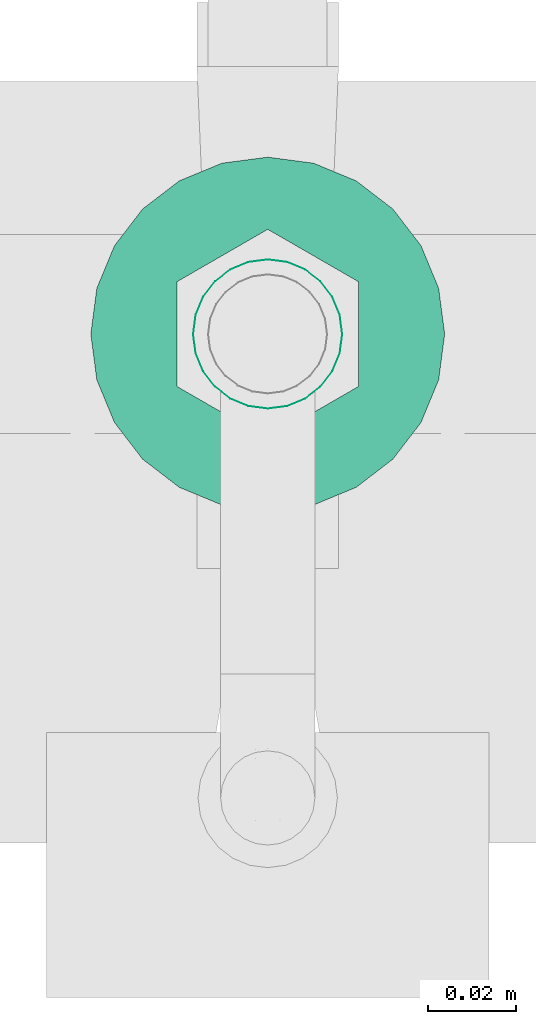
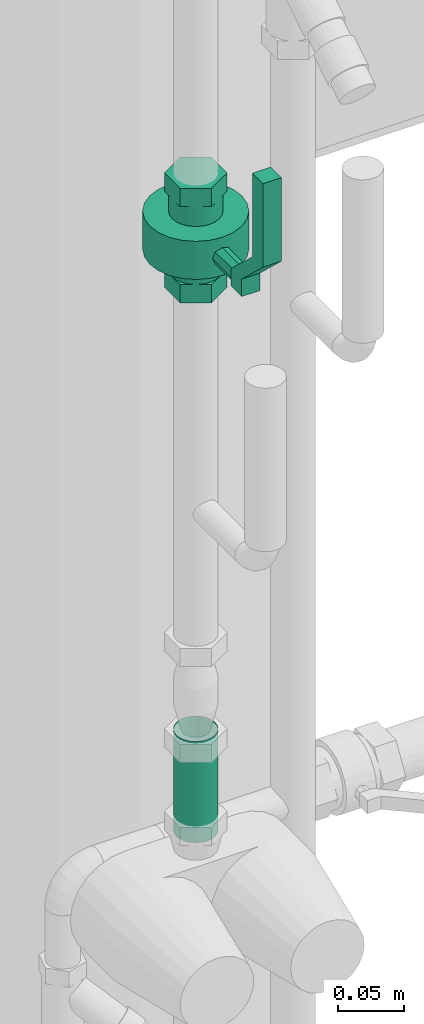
# One storey, part 100 of 374: 1 flow controller, 1 flow segment.
"""IFC2X3 building model written with IfcOpenShell, lengths in metres."""

from ifc_helpers import new_model, si_unit, direction, origin, place, context, subcontext, project, spatial, open_shell, surface_model, source, transform, mapped, element, save


model = new_model("IFC2X3")

# Units and contexts
model_context = context("Model", 3, precision=1e-05, world=origin(), true_north=direction((-0.4480736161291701, 0.8939966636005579)))
body_context = subcontext(model_context, "Body", "Model", "MODEL_VIEW")
ifc_project = project(units=[si_unit("LENGTHUNIT", "METRE"), si_unit("AREAUNIT", "SQUARE_METRE"), si_unit("VOLUMEUNIT", "CUBIC_METRE"), si_unit("PLANEANGLEUNIT", "RADIAN"), si_unit("THERMODYNAMICTEMPERATUREUNIT", "KELVIN"), si_unit("MASSUNIT", "GRAM", prefix="KILO"), si_unit("TIMEUNIT", "SECOND")], contexts=[model_context])

# Site, building, storey
site_placement = place(None, origin())
site = spatial("IfcSite", under=ifc_project, at=site_placement, Name="Site 1", CompositionType="ELEMENT")
building_placement = place(site_placement, origin())
building = spatial("IfcBuilding", under=site, at=building_placement, Name="Undefined", CompositionType="ELEMENT")
storey_placement = place(building_placement, origin())
storey = spatial("IfcBuildingStorey", under=building, at=storey_placement, Name="Rez de chauss\x8ee", CompositionType="ELEMENT", Elevation=0.0)

# Flow segment
shared_shape_1 = source(origin(), body_context, "Body", "SurfaceModel", [
    surface_model("IfcFaceBasedSurfaceModel", [(0.0, 0.004398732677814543, 0.0), (0.0, 0.0, 0.0), (0.09294752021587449, 8.8817842e-16, 0.0), (0.09294752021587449, 0.004398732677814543, 0.0), (0.0, -0.004248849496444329, -0.00113847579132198), (0.09294752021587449, -0.004248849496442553, -0.0011384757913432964), (0.0, -0.008058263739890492, -0.003337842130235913), (0.09294752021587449, -0.008058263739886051, -0.003337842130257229), (0.0, -0.01116863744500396, -0.0064482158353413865), (0.09294752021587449, -0.01116863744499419, -0.006448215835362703), (0.0, -0.013368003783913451, -0.010257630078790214), (0.09294752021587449, -0.013368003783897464, -0.010257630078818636), (0.0, -0.014506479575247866, -0.014506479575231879), (0.09294752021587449, -0.014506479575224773, -0.0145064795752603), (0.0, -0.01450647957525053, -0.01890521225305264), (0.09294752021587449, -0.014506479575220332, -0.018905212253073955), (0.0, -0.013368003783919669, -0.023154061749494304), (0.09294752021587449, -0.013368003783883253, -0.023154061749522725), (0.0, -0.011168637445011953, -0.02696347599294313), (0.09294752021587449, -0.011168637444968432, -0.026963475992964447), (0.0, -0.008058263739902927, -0.03007384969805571), (0.09294752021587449, -0.008058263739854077, -0.03007384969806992), (0.0, -0.004248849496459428, -0.03227321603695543), (0.09294752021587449, -0.004248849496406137, -0.03227321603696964), (0.0, -1.5099033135e-14, -0.03341169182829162), (0.09294752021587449, 3.8191672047e-14, -0.03341169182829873), (0.0, 0.00439873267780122, -0.03341169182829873), (0.09294752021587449, 0.004398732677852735, -0.03341169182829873), (0.0, 0.008647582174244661, -0.03227321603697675), (0.09294752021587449, 0.008647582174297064, -0.03227321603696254), (0.0, 0.012456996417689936, -0.030073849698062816), (0.09294752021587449, 0.012456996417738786, -0.0300738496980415), (0.0, 0.01556737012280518, -0.026963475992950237), (0.09294752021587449, 0.015567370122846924, -0.026963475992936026), (0.0, 0.017766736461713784, -0.023154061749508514), (0.09294752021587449, 0.01776673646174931, -0.023154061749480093), (0.0, 0.018905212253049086, -0.01890521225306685), (0.09294752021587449, 0.018905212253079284, -0.018905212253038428), (0.0, 0.018905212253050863, -0.01450647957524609), (0.09294752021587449, 0.01890521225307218, -0.014506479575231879), (0.0, 0.01776673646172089, -0.01025763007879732), (0.09294752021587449, 0.017766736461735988, -0.010257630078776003), (0.0, 0.015567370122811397, -0.006448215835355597), (0.09294752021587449, 0.015567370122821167, -0.006448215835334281), (0.0, 0.012456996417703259, -0.0033378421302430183), (0.09294752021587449, 0.012456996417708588, -0.003337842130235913), (0.0, 0.00864758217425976, -0.0011384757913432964), (0.09294752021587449, 0.00864758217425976, -0.0011384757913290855)], [open_shell([[[0, 1, 2, 3]], [[1, 4, 5, 2]], [[4, 6, 7, 5]], [[6, 8, 9, 7]], [[8, 10, 11, 9]], [[10, 12, 13, 11]], [[12, 14, 15, 13]], [[14, 16, 17, 15]], [[16, 18, 19, 17]], [[18, 20, 21, 19]], [[20, 22, 23, 21]], [[22, 24, 25, 23]], [[24, 26, 27, 25]], [[26, 28, 29, 27]], [[28, 30, 31, 29]], [[30, 32, 33, 31]], [[32, 34, 35, 33]], [[34, 36, 37, 35]], [[36, 38, 39, 37]], [[38, 40, 41, 39]], [[40, 42, 43, 41]], [[42, 44, 45, 43]], [[44, 46, 47, 45]], [[46, 0, 3, 47]]])]),
])
flow_segment_placement = place(storey_placement, origin())
element("IfcFlowSegment", 1, at=flow_segment_placement, inside=storey, Name="Tube acier d'après DIN 2448", ObjectType="Tube acier d'après DIN 2448", context=body_context, shape_type="MappedRepresentation", body=[
    mapped(shared_shape_1, transform((53.27383786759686, 10.722398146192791, 1.1632), x_axis=(0.0, 0.0, 1.0), y_axis=(0.13052619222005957, -0.9914448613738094, 0.0), z_axis=(0.9914448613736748, 0.13052619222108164, 0.0))),
])

# Flow controller
shared_shape_2 = source(origin(), body_context, "Body", "SurfaceModel", [
    surface_model("IfcFaceBasedSurfaceModel", [(0.0, 0.0, 0.0), (0.016000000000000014, 0.0, 0.0), (0.016000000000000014, 0.015999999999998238, 0.0), (0.0, 0.015999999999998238, 0.0), (0.016000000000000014, 0.0, 0.016000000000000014), (0.016000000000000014, 0.015999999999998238, 0.016000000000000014), (0.0, 0.0, 0.016000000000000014), (0.0, 0.015999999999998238, 0.016000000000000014), (-0.030333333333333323, 0.0, 0.04800000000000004), (-0.030333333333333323, 0.015999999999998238, 0.04800000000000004), (-0.1070000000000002, 0.0, 0.04800000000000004), (-0.1070000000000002, 0.015999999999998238, 0.04800000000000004), (-0.1070000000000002, 0.0, 0.03200000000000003), (-0.1070000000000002, 0.015999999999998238, 0.03200000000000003), (-0.030333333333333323, 0.0, 0.03200000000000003), (-0.030333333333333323, 0.015999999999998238, 0.03200000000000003), (0.060500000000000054, 0.02850000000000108, -0.0788356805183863), (0.060500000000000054, 0.02850000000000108, -0.05516431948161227), (0.04370000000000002, 0.02850000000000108, -0.05516431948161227), (0.04370000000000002, 0.02850000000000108, -0.0788356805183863), (0.060500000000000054, 0.008000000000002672, -0.0906713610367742), (0.04370000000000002, 0.008000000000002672, -0.0906713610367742), (0.060500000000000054, -0.012500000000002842, -0.0788356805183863), (0.04370000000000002, -0.012500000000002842, -0.0788356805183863), (0.060500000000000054, -0.012500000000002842, -0.05516431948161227), (0.04370000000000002, -0.012500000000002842, -0.05516431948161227), (0.060500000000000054, 0.008000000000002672, -0.043328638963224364), (0.04370000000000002, 0.008000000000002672, -0.043328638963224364), (0.04370000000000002, -0.012500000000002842, -0.06700000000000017), (0.04370000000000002, -0.011801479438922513, -0.06169420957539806), (0.025500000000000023, -0.011801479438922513, -0.06169420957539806), (0.025500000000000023, -0.012500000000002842, -0.06700000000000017), (0.04370000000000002, -0.009753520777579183, -0.05674999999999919), (0.025500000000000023, -0.009753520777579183, -0.05674999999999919), (0.04370000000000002, -0.006495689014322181, -0.05250431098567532), (0.025500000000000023, -0.006495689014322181, -0.05250431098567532), (0.04370000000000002, -0.002250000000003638, -0.049246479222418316), (0.025500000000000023, -0.002250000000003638, -0.049246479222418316), (0.04370000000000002, 0.0026942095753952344, -0.04719852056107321), (0.025500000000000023, 0.0026942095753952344, -0.04719852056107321), (0.04370000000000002, 0.008000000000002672, -0.046499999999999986), (0.025500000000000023, 0.008000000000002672, -0.046499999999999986), (0.04370000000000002, 0.013305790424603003, -0.04719852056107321), (0.025500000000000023, 0.013305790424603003, -0.04719852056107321), (0.04370000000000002, 0.018250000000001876, -0.049246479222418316), (0.025500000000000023, 0.018250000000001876, -0.049246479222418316), (0.04370000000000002, 0.02249568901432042, -0.05250431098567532), (0.025500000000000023, 0.02249568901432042, -0.05250431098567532), (0.04370000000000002, 0.02575352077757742, -0.05674999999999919), (0.025500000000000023, 0.02575352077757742, -0.05674999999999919), (0.04370000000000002, 0.02780147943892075, -0.06169420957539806), (0.025500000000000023, 0.02780147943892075, -0.06169420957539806), (0.04370000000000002, 0.02850000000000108, -0.06700000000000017), (0.025500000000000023, 0.02850000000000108, -0.06700000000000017), (0.04370000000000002, 0.02780147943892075, -0.0723057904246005), (0.025500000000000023, 0.02780147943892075, -0.0723057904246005), (0.04370000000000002, 0.02575352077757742, -0.07724999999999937), (0.025500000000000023, 0.02575352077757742, -0.07724999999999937), (0.04370000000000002, 0.02249568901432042, -0.08149568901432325), (0.025500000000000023, 0.02249568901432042, -0.08149568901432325), (0.04370000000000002, 0.018250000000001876, -0.08475352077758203), (0.025500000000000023, 0.018250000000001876, -0.08475352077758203), (0.04370000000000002, 0.013305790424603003, -0.08680147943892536), (0.025500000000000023, 0.013305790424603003, -0.08680147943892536), (0.04370000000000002, 0.008000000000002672, -0.08749999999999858), (0.025500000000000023, 0.008000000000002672, -0.08749999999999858), (0.04370000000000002, 0.0026942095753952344, -0.08680147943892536), (0.025500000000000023, 0.0026942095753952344, -0.08680147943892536), (0.04370000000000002, -0.002250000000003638, -0.08475352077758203), (0.025500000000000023, -0.002250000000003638, -0.08475352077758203), (0.04370000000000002, -0.006495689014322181, -0.08149568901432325), (0.025500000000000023, -0.006495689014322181, -0.08149568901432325), (0.04370000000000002, -0.009753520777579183, -0.07724999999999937), (0.025500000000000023, -0.009753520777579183, -0.07724999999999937), (0.04370000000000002, -0.011801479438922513, -0.0723057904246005), (0.025500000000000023, -0.011801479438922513, -0.0723057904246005), (0.025500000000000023, -0.03200000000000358, -0.06700000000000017), (0.025500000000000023, -0.030637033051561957, -0.05664723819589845), (-0.009499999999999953, -0.030637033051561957, -0.05664723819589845), (-0.009499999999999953, -0.03200000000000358, -0.06700000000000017), (0.025500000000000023, -0.02664101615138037, -0.04699999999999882), (-0.009499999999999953, -0.02664101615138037, -0.04699999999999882), (0.025500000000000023, -0.020284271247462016, -0.03871572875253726), (-0.009499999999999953, -0.020284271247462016, -0.03871572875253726), (0.025500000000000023, -0.012000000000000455, -0.03235898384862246), (-0.009499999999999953, -0.012000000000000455, -0.03235898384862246), (0.025500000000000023, -0.002352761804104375, -0.028362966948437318), (-0.009499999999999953, -0.002352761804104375, -0.028362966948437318), (0.025500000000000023, 0.008000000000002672, -0.026999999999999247), (-0.009499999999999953, 0.008000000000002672, -0.026999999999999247), (0.025500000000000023, 0.018352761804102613, -0.028362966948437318), (-0.009499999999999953, 0.018352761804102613, -0.028362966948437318), (0.025500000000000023, 0.027999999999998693, -0.03235898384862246), (-0.009499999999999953, 0.027999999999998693, -0.03235898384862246), (0.025500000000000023, 0.036284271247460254, -0.03871572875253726), (-0.009499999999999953, 0.036284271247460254, -0.03871572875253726), (0.025500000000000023, 0.04264101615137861, -0.04699999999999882), (-0.009499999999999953, 0.04264101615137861, -0.04699999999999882), (0.025500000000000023, 0.046637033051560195, -0.05664723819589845), (-0.009499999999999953, 0.046637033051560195, -0.05664723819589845), (0.025500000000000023, 0.04800000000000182, -0.06700000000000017), (-0.009499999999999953, 0.04800000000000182, -0.06700000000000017), (0.025500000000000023, 0.046637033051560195, -0.07735276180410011), (-0.009499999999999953, 0.046637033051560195, -0.07735276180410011), (0.025500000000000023, 0.04264101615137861, -0.08699999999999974), (-0.009499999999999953, 0.04264101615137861, -0.08699999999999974), (0.025500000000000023, 0.036284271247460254, -0.0952842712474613), (-0.009499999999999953, 0.036284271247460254, -0.0952842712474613), (0.025500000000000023, 0.027999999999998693, -0.10164101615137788), (-0.009499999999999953, 0.027999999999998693, -0.10164101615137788), (0.025500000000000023, 0.018352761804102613, -0.10563703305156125), (-0.009499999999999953, 0.018352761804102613, -0.10563703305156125), (0.025500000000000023, 0.008000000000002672, -0.10699999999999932), (-0.009499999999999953, 0.008000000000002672, -0.10699999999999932), (0.025500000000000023, -0.002352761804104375, -0.10563703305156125), (-0.009499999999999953, -0.002352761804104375, -0.10563703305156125), (0.025500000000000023, -0.012000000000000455, -0.10164101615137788), (-0.009499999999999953, -0.012000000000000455, -0.10164101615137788), (0.025500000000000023, -0.020284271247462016, -0.0952842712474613), (-0.009499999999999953, -0.020284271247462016, -0.0952842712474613), (0.025500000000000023, -0.02664101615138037, -0.08699999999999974), (-0.009499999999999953, -0.02664101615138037, -0.08699999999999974), (0.025500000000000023, -0.030637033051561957, -0.07735276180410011), (-0.009499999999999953, -0.030637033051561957, -0.07735276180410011), (0.025500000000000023, 0.008000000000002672, -0.06700000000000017), (-0.009499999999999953, 0.008000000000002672, -0.06700000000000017), (-0.009499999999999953, -0.012500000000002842, -0.06700000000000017), (-0.009499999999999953, -0.011801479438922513, -0.06169420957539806), (-0.027699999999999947, -0.011801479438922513, -0.06169420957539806), (-0.027699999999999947, -0.012500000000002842, -0.06700000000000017), (-0.009499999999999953, -0.009753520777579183, -0.05674999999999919), (-0.027699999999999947, -0.009753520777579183, -0.05674999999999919), (-0.009499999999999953, -0.006495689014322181, -0.05250431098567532), (-0.027699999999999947, -0.006495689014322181, -0.05250431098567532), (-0.009499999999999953, -0.002250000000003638, -0.049246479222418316), (-0.027699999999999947, -0.002250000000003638, -0.049246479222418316), (-0.009499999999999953, 0.0026942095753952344, -0.04719852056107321), (-0.027699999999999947, 0.0026942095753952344, -0.04719852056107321), (-0.009499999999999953, 0.008000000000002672, -0.046499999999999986), (-0.027699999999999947, 0.008000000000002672, -0.046499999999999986), (-0.009499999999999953, 0.013305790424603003, -0.04719852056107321), (-0.027699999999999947, 0.013305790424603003, -0.04719852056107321), (-0.009499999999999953, 0.018250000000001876, -0.049246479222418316), (-0.027699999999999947, 0.018250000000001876, -0.049246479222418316), (-0.009499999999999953, 0.02249568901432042, -0.05250431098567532), (-0.027699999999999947, 0.02249568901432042, -0.05250431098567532), (-0.009499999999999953, 0.02575352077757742, -0.05674999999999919), (-0.027699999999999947, 0.02575352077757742, -0.05674999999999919), (-0.009499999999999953, 0.02780147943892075, -0.06169420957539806), (-0.027699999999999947, 0.02780147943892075, -0.06169420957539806), (-0.009499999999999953, 0.02850000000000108, -0.06700000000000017), (-0.027699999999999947, 0.02850000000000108, -0.06700000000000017), (-0.009499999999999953, 0.02780147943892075, -0.0723057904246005), (-0.027699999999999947, 0.02780147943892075, -0.0723057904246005), (-0.009499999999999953, 0.02575352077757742, -0.07724999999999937), (-0.027699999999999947, 0.02575352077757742, -0.07724999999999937), (-0.009499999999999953, 0.02249568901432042, -0.08149568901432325), (-0.027699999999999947, 0.02249568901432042, -0.08149568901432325), (-0.009499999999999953, 0.018250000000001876, -0.08475352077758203), (-0.027699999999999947, 0.018250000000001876, -0.08475352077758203), (-0.009499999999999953, 0.013305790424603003, -0.08680147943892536), (-0.027699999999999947, 0.013305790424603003, -0.08680147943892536), (-0.009499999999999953, 0.008000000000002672, -0.08749999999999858), (-0.027699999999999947, 0.008000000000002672, -0.08749999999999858), (-0.009499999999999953, 0.0026942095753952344, -0.08680147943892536), (-0.027699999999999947, 0.0026942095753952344, -0.08680147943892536), (-0.009499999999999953, -0.002250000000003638, -0.08475352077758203), (-0.027699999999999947, -0.002250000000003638, -0.08475352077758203), (-0.009499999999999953, -0.006495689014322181, -0.08149568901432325), (-0.027699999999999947, -0.006495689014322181, -0.08149568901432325), (-0.009499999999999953, -0.009753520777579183, -0.07724999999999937), (-0.027699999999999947, -0.009753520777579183, -0.07724999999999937), (-0.009499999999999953, -0.011801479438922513, -0.0723057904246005), (-0.027699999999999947, -0.011801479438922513, -0.0723057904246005), (-0.027699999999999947, 0.02850000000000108, -0.0788356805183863), (-0.027699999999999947, 0.02850000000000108, -0.05516431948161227), (-0.04449999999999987, 0.02850000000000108, -0.05516431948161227), (-0.04449999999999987, 0.02850000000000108, -0.0788356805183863), (-0.027699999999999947, 0.008000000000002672, -0.0906713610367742), (-0.04449999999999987, 0.008000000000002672, -0.0906713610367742), (-0.027699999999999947, -0.012500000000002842, -0.0788356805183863), (-0.04449999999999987, -0.012500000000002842, -0.0788356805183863), (-0.027699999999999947, -0.012500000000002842, -0.05516431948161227), (-0.04449999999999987, -0.012500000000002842, -0.05516431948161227), (-0.027699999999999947, 0.008000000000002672, -0.043328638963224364), (-0.04449999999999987, 0.008000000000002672, -0.043328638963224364), (0.0, 0.008000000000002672, -0.06700000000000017), (0.002343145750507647, 0.002343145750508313, -0.06700000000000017), (0.002343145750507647, 0.002343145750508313, 0.0), (0.0, 0.008, 0.0), (0.008000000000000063, 0.0, -0.06700000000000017), (0.008000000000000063, 0.0, 0.0), (0.013656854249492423, 0.002343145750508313, -0.06700000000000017), (0.013656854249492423, 0.002343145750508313, 0.0), (0.016000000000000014, 0.008000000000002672, -0.06700000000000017), (0.016000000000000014, 0.008000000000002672, 0.0), (0.013656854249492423, 0.013656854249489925, -0.06700000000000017), (0.013656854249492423, 0.013656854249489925, 0.0), (0.008000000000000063, 0.015999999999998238, -0.06700000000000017), (0.008000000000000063, 0.015999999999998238, 0.0), (0.002343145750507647, 0.013656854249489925, -0.06700000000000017), (0.002343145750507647, 0.013656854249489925, 0.0)], [open_shell([[[0, 1, 2, 3]], [[1, 4, 5, 2]], [[4, 6, 7, 5]], [[6, 8, 9, 7]], [[8, 10, 11, 9]], [[10, 12, 13, 11]], [[12, 14, 15, 13]], [[14, 0, 3, 15]], [[3, 7, 2]], [[7, 3, 9]], [[15, 9, 3]], [[9, 15, 11]], [[13, 11, 15]], [[5, 2, 7]], [[1, 6, 0]], [[8, 0, 6]], [[0, 8, 14]], [[10, 14, 8]], [[14, 10, 12]], [[6, 1, 4]], [[16, 17, 18, 19]], [[20, 16, 19, 21]], [[22, 20, 21, 23]], [[24, 22, 23, 25]], [[26, 24, 25, 27]], [[17, 26, 27, 18]], [[17, 16, 20]], [[17, 20, 22]], [[17, 22, 24]], [[17, 24, 26]], [[18, 21, 19]], [[18, 23, 21]], [[18, 25, 23]], [[18, 27, 25]], [[28, 29, 30, 31]], [[29, 32, 33, 30]], [[32, 34, 35, 33]], [[34, 36, 37, 35]], [[36, 38, 39, 37]], [[38, 40, 41, 39]], [[40, 42, 43, 41]], [[42, 44, 45, 43]], [[44, 46, 47, 45]], [[46, 48, 49, 47]], [[48, 50, 51, 49]], [[50, 52, 53, 51]], [[52, 54, 55, 53]], [[54, 56, 57, 55]], [[56, 58, 59, 57]], [[58, 60, 61, 59]], [[60, 62, 63, 61]], [[62, 64, 65, 63]], [[64, 66, 67, 65]], [[66, 68, 69, 67]], [[68, 70, 71, 69]], [[70, 72, 73, 71]], [[72, 74, 75, 73]], [[74, 28, 31, 75]], [[76, 77, 78, 79]], [[77, 80, 81, 78]], [[80, 82, 83, 81]], [[82, 84, 85, 83]], [[84, 86, 87, 85]], [[86, 88, 89, 87]], [[88, 90, 91, 89]], [[90, 92, 93, 91]], [[92, 94, 95, 93]], [[94, 96, 97, 95]], [[96, 98, 99, 97]], [[98, 100, 101, 99]], [[100, 102, 103, 101]], [[102, 104, 105, 103]], [[104, 106, 107, 105]], [[106, 108, 109, 107]], [[108, 110, 111, 109]], [[110, 112, 113, 111]], [[112, 114, 115, 113]], [[114, 116, 117, 115]], [[116, 118, 119, 117]], [[118, 120, 121, 119]], [[120, 122, 123, 121]], [[122, 76, 79, 123]], [[124, 77, 76]], [[124, 80, 77]], [[124, 82, 80]], [[124, 84, 82]], [[124, 86, 84]], [[124, 88, 86]], [[124, 90, 88]], [[124, 92, 90]], [[124, 94, 92]], [[124, 96, 94]], [[124, 98, 96]], [[124, 100, 98]], [[124, 102, 100]], [[124, 104, 102]], [[124, 106, 104]], [[124, 108, 106]], [[124, 110, 108]], [[124, 112, 110]], [[124, 114, 112]], [[124, 116, 114]], [[124, 118, 116]], [[124, 120, 118]], [[124, 122, 120]], [[124, 76, 122]], [[125, 123, 79]], [[125, 121, 123]], [[125, 119, 121]], [[125, 117, 119]], [[125, 115, 117]], [[125, 113, 115]], [[125, 111, 113]], [[125, 109, 111]], [[125, 107, 109]], [[125, 105, 107]], [[125, 103, 105]], [[125, 101, 103]], [[125, 99, 101]], [[125, 97, 99]], [[125, 95, 97]], [[125, 93, 95]], [[125, 91, 93]], [[125, 89, 91]], [[125, 87, 89]], [[125, 85, 87]], [[125, 83, 85]], [[125, 81, 83]], [[125, 78, 81]], [[125, 79, 78]], [[126, 127, 128, 129]], [[127, 130, 131, 128]], [[130, 132, 133, 131]], [[132, 134, 135, 133]], [[134, 136, 137, 135]], [[136, 138, 139, 137]], [[138, 140, 141, 139]], [[140, 142, 143, 141]], [[142, 144, 145, 143]], [[144, 146, 147, 145]], [[146, 148, 149, 147]], [[148, 150, 151, 149]], [[150, 152, 153, 151]], [[152, 154, 155, 153]], [[154, 156, 157, 155]], [[156, 158, 159, 157]], [[158, 160, 161, 159]], [[160, 162, 163, 161]], [[162, 164, 165, 163]], [[164, 166, 167, 165]], [[166, 168, 169, 167]], [[168, 170, 171, 169]], [[170, 172, 173, 171]], [[172, 126, 129, 173]], [[174, 175, 176, 177]], [[178, 174, 177, 179]], [[180, 178, 179, 181]], [[182, 180, 181, 183]], [[184, 182, 183, 185]], [[175, 184, 185, 176]], [[175, 174, 178]], [[175, 178, 180]], [[175, 180, 182]], [[175, 182, 184]], [[176, 179, 177]], [[176, 181, 179]], [[176, 183, 181]], [[176, 185, 183]], [[186, 187, 188, 189]], [[187, 190, 191, 188]], [[190, 192, 193, 191]], [[192, 194, 195, 193]], [[194, 196, 197, 195]], [[196, 198, 199, 197]], [[198, 200, 201, 199]], [[200, 186, 189, 201]]])]),
])
flow_controller_placement = place(storey_placement, origin())
element("IfcFlowController", 2, at=flow_controller_placement, inside=storey, Name="Robinet à boisseau sphérique", ObjectType="Robinet à boisseau sphérique", context=body_context, shape_type="MappedRepresentation", body=[
    mapped(shared_shape_2, transform((53.24956201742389, 10.651037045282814, 1.7219890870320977), x_axis=(0.0, 0.0, -1.0), y_axis=(1.0, 0.0, 0.0), z_axis=(0.0, -1.0, 0.0))),
])

save(model, "model.ifc")
